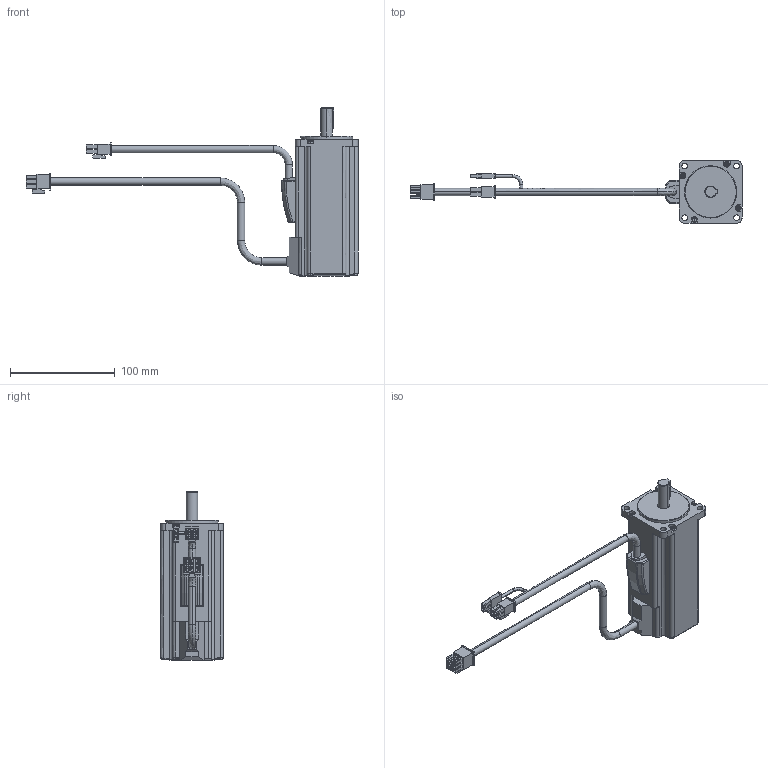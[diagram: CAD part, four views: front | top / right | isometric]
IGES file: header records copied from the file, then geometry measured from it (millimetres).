
Start section:  PTC IGES file: 10001025_rsmz-02bq-bh_brake.igs
Global section: file name: 10001025_rsmz-02bq-bh_brake.igs; native system: Pro/ENGINEER by Parametric Technology Corporation; preprocessor: 2004440; author: Administrator; organization: Unknown; date: 070829.201605; units: millimetre
Bounding box: 317.7 x 60 x 161 mm (x, y, z)
Volume: 447085.8 mm3; surface area: 57363.6 mm2
Topology: 1 solids, 1 shells, 504 faces, 1271 edges, 825 vertices
Faces by surface type: bspline 364, revolution 140
